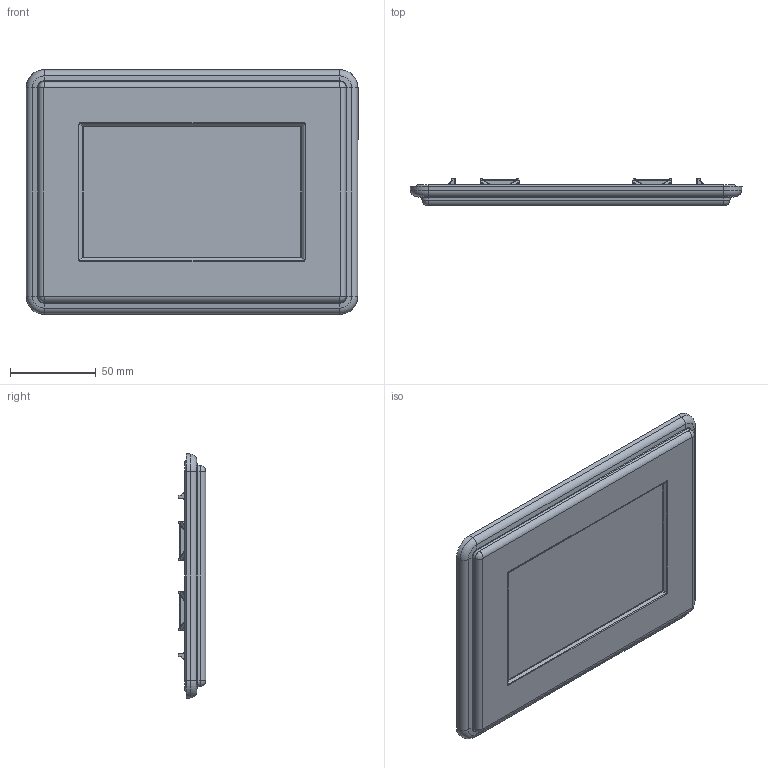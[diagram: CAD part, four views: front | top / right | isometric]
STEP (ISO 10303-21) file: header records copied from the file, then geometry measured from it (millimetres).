
FILE_DESCRIPTION (( 'STEP AP203' ), '1' );
FILE_NAME ('apwk53nfnm.STEP', '2014-08-29T19:10:02', ( 'User' ), ( 'Pentair Inc' ), 'SwSTEP 2.0', 'SolidWorks 2010', '' );
FILE_SCHEMA (( 'CONFIG_CONTROL_DESIGN' ));
Products named in the file (3): apwk53nfnm; 89106965; 89064871_5x3 window
Assembly tree (2 placements, depth 2):
  apwk53nfnm
    89064871_5x3 window
    89106965
Bounding box: 193.55 x 15.98 x 142.75 mm (x, y, z)
Volume: 138361.1 mm3; surface area: 84242.7 mm2
Topology: 2 solids, 2 shells, 1395 faces, 3060 edges, 1682 vertices
Faces by surface type: cylinder 524, bspline 252, plane 209, sphere 180, torus 152, cone 78
Entity records: 41215 total; most frequent: CARTESIAN_POINT 11954, DIRECTION 6286, ORIENTED_EDGE 6120, EDGE_CURVE 3060, AXIS2_PLACEMENT_3D 2582, VERTEX_POINT 1682, CIRCLE 1434, EDGE_LOOP 1410
